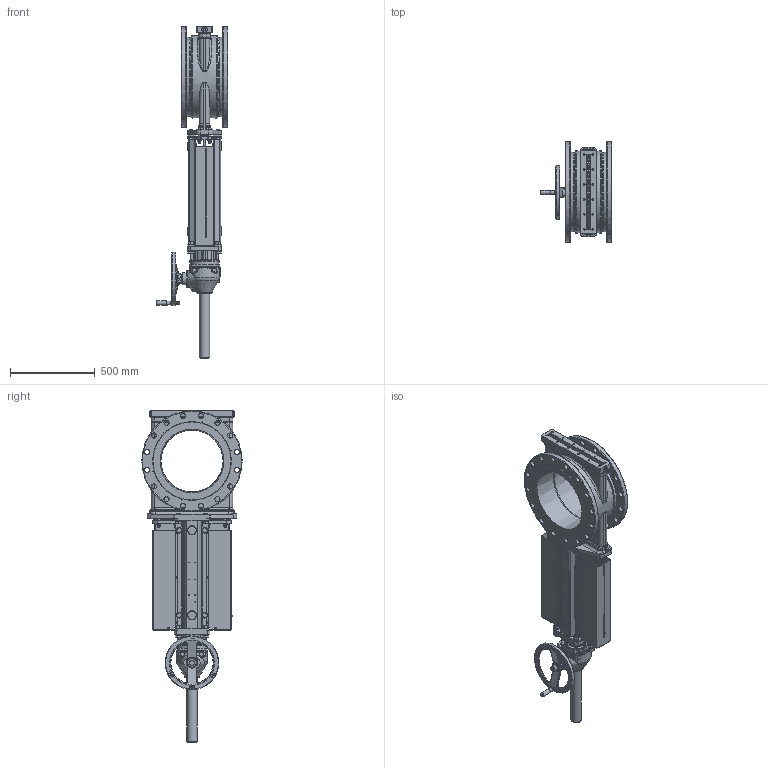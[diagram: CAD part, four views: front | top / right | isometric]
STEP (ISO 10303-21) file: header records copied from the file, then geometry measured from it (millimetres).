
FILE_DESCRIPTION(/* description */ (''),/* implementation_level */ '2;1');
FILE_NAME(/* name */ 'F:\3D-block färdiga för export\SLV-SLF\DN 400\SLF DN 400-ANSI150-BG.stp',/* time_stamp */ '2021-06-16T12:59:22+02:00',/* author */ ('MATZET'),/* organization */ (''),/* preprocessor_version */ 'ST-DEVELOPER v18',/* originating_system */ 'Autodesk Inventor 2020',/* authorisation */ '');
FILE_SCHEMA (('AUTOMOTIVE_DESIGN { 1 0 10303 214 3 1 1 }'));
Length unit declared in the file: millimetre
Products named in the file (1): SLF DN 400-ANSI150-BG_Shrinkwrap_2
Bounding box: 423.4 x 590 x 1953.5 mm (x, y, z)
Volume: 44500422.8 mm3; surface area: 5870404.5 mm2
Topology: 1 solids, 1 shells, 2867 faces, 7516 edges, 4807 vertices
Faces by surface type: plane 1220, cylinder 707, bspline 386, cone 268, torus 224, sphere 62
Full cylindrical faces by diameter (mm): 2 x2, 2.5 x8, 3.5 x4, 4 x24, 4.917 x12, 5 x8, 6 x1, 6.647 x4, 7 x12, 8.376 x2, 8.88 x1, 11 x4, 12 x18, 13 x8, 13.835 x4, 14 x8, 15 x9, 18 x5, 19 x8, 20 x4, 20.5 x2, 23 x8, 24 x16, 25 x3, 25.01 x2, 26 x4, 26.5 x2, 28.19 x8, 28.3 x2, 29 x1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
Entity records: 255757 total; most frequent: CARTESIAN_POINT 184330, ORIENTED_EDGE 14776, DIRECTION 14110, EDGE_CURVE 7388, AXIS2_PLACEMENT_3D 5454, VERTEX_POINT 4801, EDGE_LOOP 3339, LINE 3202
